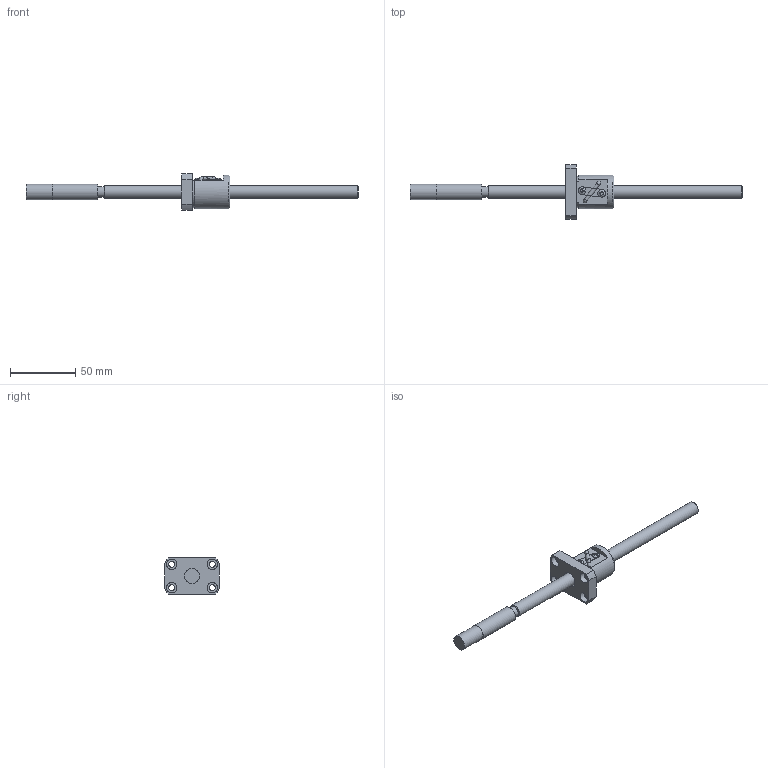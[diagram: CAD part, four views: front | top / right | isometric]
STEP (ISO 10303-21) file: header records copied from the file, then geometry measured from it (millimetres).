
FILE_DESCRIPTION((''),'2;1');
FILE_NAME('D:\製品 (図面)\カタログ用3D\ネジ関連\STEP形式\KBS(C)\KBS(C)1004-255.stp','2010-06-02T09:14:40',('Tsuchiya'),(''),'Autodesk Inventor 10','Autodesk Inventor 10','');
FILE_SCHEMA(('AUTOMOTIVE_DESIGN { 1 0 10303 214 1 1 1 1 }'));
Length unit declared in the file: millimetre
Products named in the file (3): KBS(C)1004-255; KBS(C)1004-2551; KBS(C)1004-2552
Assembly tree (2 placements, depth 2):
  KBS(C)1004-255
    KBS(C)1004-2551
    KBS(C)1004-2552
Bounding box: 255 x 42 x 28 mm (x, y, z)
Volume: 40848.4 mm3; surface area: 16220.5 mm2
Topology: 2 solids, 2 shells, 103 faces, 261 edges, 172 vertices
Faces by surface type: plane 42, cylinder 36, bspline 20, cone 3, torus 2
Full cylindrical faces by diameter (mm): 2.5 x1, 4.5 x4, 5.6 x1, 8 x4, 8.1 x1, 10 x2, 11.7 x1, 12 x3, 26 x1
Entity records: 3329 total; most frequent: CARTESIAN_POINT 934, ORIENTED_EDGE 456, DIRECTION 454, EDGE_CURVE 228, AXIS2_PLACEMENT_3D 170, VERTEX_POINT 166, EDGE_LOOP 156, VECTOR 114
